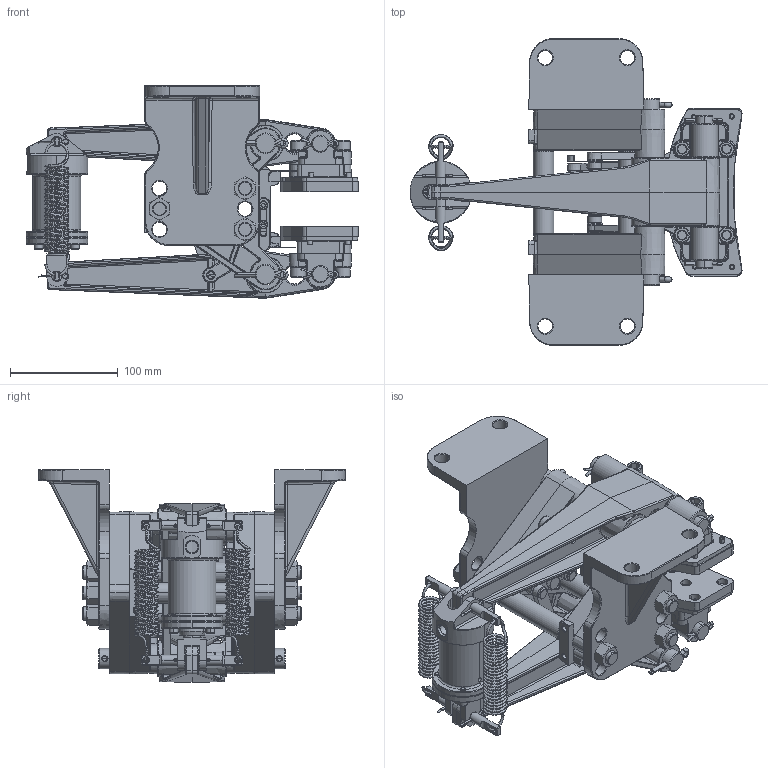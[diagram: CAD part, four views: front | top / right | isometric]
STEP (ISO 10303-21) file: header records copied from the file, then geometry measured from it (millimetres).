
FILE_DESCRIPTION (( 'STEP AP214' ), '1' );
FILE_NAME ('5020-HW.STEP', '2016-02-05T17:08:30', ( 'User' ), ( 'Microsoft' ), 'SwSTEP 2.0', 'SolidWorks 2015', '' );
FILE_SCHEMA (( 'AUTOMOTIVE_DESIGN' ));
Length unit declared in the file: inch
Products named in the file (1): 5020-HW
Bounding box: 307.96 x 284.48 x 197.23 mm (x, y, z)
Surface area: 568221.6 mm2 (no closed solid volume)
Topology: 0 solids, 149 shells, 2274 faces, 6800 edges, 4508 vertices
Faces by surface type: plane 696, cylinder 669, cone 517, torus 257, bspline 120, sphere 15
Entity records: 131498 total; most frequent: CARTESIAN_POINT 42366, DIRECTION 12993, ORIENTED_EDGE 11253, EDGE_CURVE 6769, AXIS2_PLACEMENT_3D 5061, VERTEX_POINT 4508, CIRCLE 2906, LINE 2871
